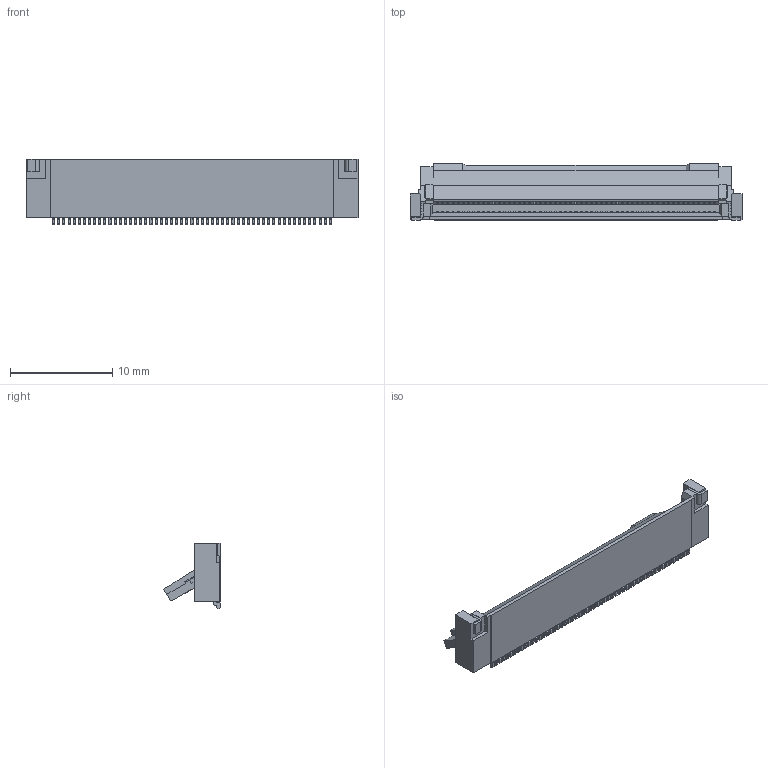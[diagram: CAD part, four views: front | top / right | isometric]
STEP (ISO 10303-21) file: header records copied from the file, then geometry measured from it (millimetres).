
FILE_DESCRIPTION (( 'STEP AP203' ), '1' );
FILE_NAME ('20647-055E-01 ASS''Y ACT OPEN STEP R2 ALL.STEP', '2016-10-03T14:52:55', ( '' ), ( '' ), 'SwSTEP 2.0', 'SolidWorks 2014', '' );
FILE_SCHEMA (( 'CONFIG_CONTROL_DESIGN' ));
Products named in the file (1): 20647-055E-01 ASS''Y ACT OPEN STEP R2 ALL
Bounding box: 32.4 x 5.51 x 6.4 mm (x, y, z)
Volume: 426.6 mm3; surface area: 874.7 mm2
Topology: 1 solids, 1 shells, 1910 faces, 5283 edges, 3540 vertices
Faces by surface type: plane 1128, cylinder 782
Entity records: 62340 total; most frequent: CARTESIAN_POINT 12408, ORIENTED_EDGE 10566, DIRECTION 10339, EDGE_CURVE 5283, LINE 3605, VECTOR 3605, VERTEX_POINT 3540, AXIS2_PLACEMENT_3D 3367
